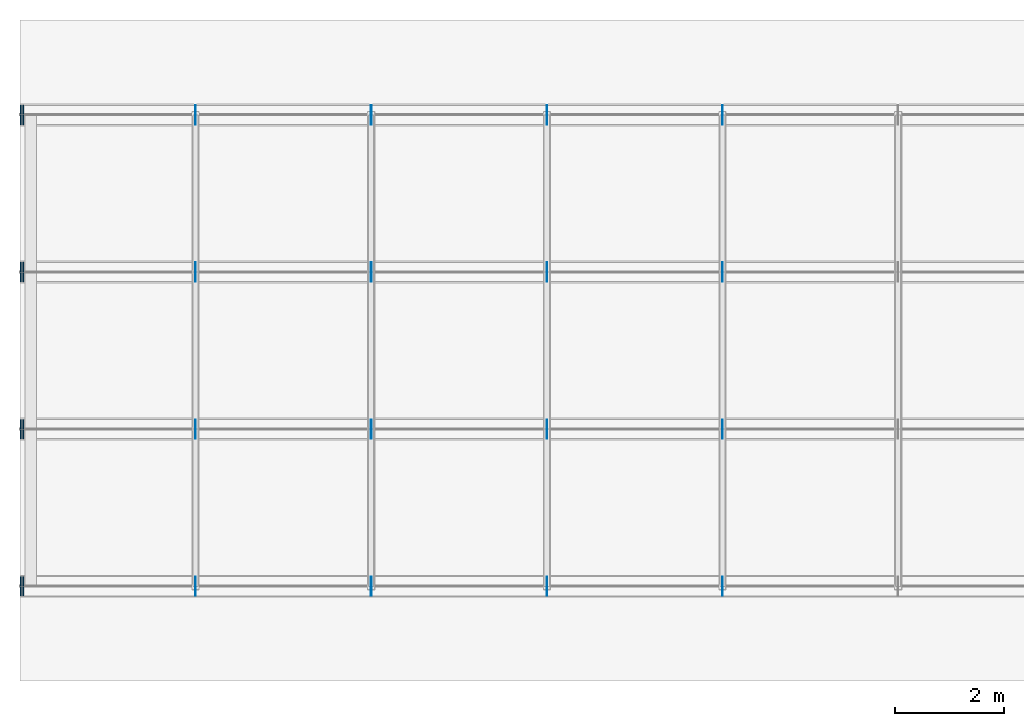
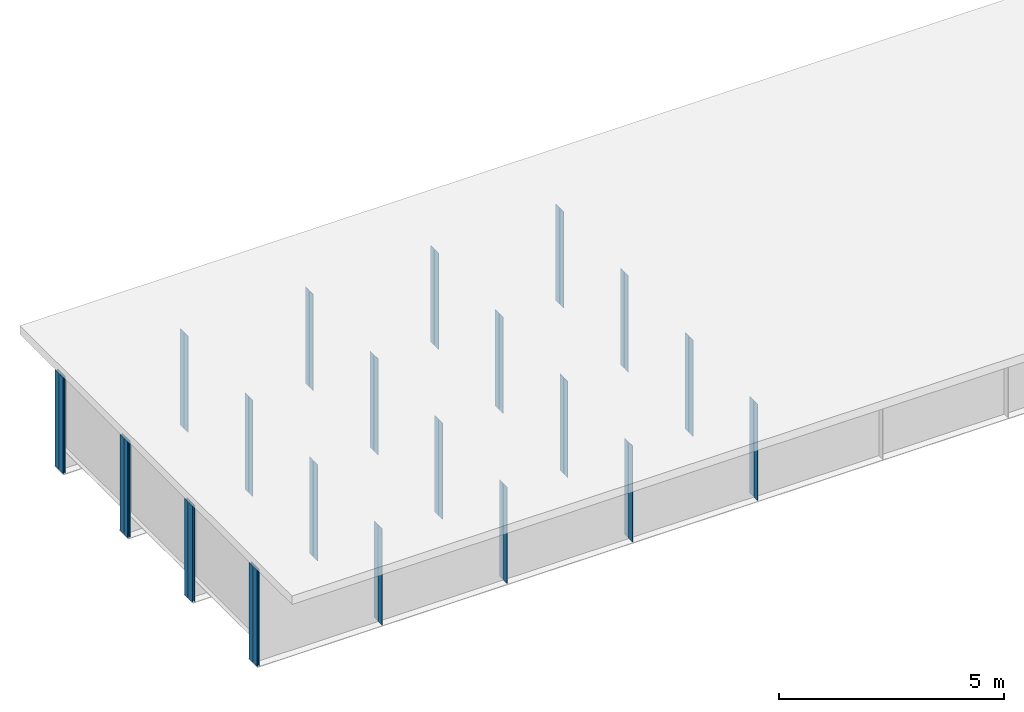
# One storey, part 3 of 13: 48 plates.
"""IFC4 building model written with IfcOpenShell, lengths in metres."""

import ifcopenshell
import ifcopenshell.guid

model = None  # the IFC model being written
_history = None  # IfcOwnerHistory: only IFC2X3 demands one
_inside = {}  # id of a spatial element -> (the spatial element, [elements in it])
_under = {}  # id of a project, library or spatial element -> (it, [spatial elements below it])
_declared = {}  # id of a project -> (the project, [libraries it declares])
_typed = {}  # id of a type object -> (the type object, [elements of that type])
_made_of = {}  # id of a material, layer set ... -> (it, [elements and type objects made of it])


def new_model(schema):
    """Start an empty IFC model of exactly this schema.

    Asked for "IFC4X3", IfcOpenShell would pick the latest addendum, in which some entities
    have other attributes; the version numbers below select the first issue.
    IFC2X3 requires an IfcOwnerHistory on every rooted entity: one is made here for all.
    """
    global model, _history
    if schema == "IFC4X3":
        model = ifcopenshell.file(schema_version=(4, 3, 0, 0))
    else:
        model = ifcopenshell.file(schema=schema)
    _inside.clear()
    _under.clear()
    _declared.clear()
    _typed.clear()
    _made_of.clear()
    _history = None
    if model.schema == "IFC2X3":
        org = make("IfcOrganization", Name="unknown")
        user = make(
            "IfcPersonAndOrganization",
            ThePerson=make("IfcPerson", FamilyName="unknown"),
            TheOrganization=org,
        )
        app = make(
            "IfcApplication",
            ApplicationDeveloper=org,
            Version="unknown",
            ApplicationFullName="unknown",
            ApplicationIdentifier="unknown",
        )
        _history = make(
            "IfcOwnerHistory",
            OwningUser=user,
            OwningApplication=app,
            ChangeAction="ADDED",
            CreationDate=0,
        )
    return model


def make(cls, **values):
    """One entity of the class cls with the attributes given. An attribute that is None is left unset."""
    return model.create_entity(
        cls, **{name: value for name, value in values.items() if value is not None}
    )


def rooted(cls, **values):
    """An entity with a GlobalId (a new one), such as an element, a storey or a relation."""
    return make(cls, GlobalId=ifcopenshell.guid.new(), OwnerHistory=_history, **values)


def si_unit(unit_type, name, prefix=None):
    """IfcSIUnit, for example si_unit("LENGTHUNIT", "METRE", prefix="MILLI")."""
    return make("IfcSIUnit", UnitType=unit_type, Prefix=prefix, Name=name)


def assignment(units):
    """IfcUnitAssignment: the units of a project."""
    return None if units is None else make("IfcUnitAssignment", Units=units)


def point(xyz):
    """IfcCartesianPoint."""
    return None if xyz is None else make("IfcCartesianPoint", Coordinates=xyz)


def direction(xyz):
    """IfcDirection."""
    return None if xyz is None else make("IfcDirection", DirectionRatios=xyz)


def frame(location, z_axis=None, x_axis=None):
    """IfcAxis2Placement3D, a coordinate frame: its origin and axes. An axis left out is left unset."""
    return make(
        "IfcAxis2Placement3D",
        Location=point(location),
        Axis=direction(z_axis),
        RefDirection=direction(x_axis),
    )


def frame_2d(location, x_axis=None):
    """IfcAxis2Placement2D, a coordinate frame in the plane: its origin and x axis."""
    return make(
        "IfcAxis2Placement2D", Location=point(location), RefDirection=direction(x_axis)
    )


def origin():
    """The frame at (0, 0, 0) with its axes left unset."""
    return frame((0.0, 0.0, 0.0))


def origin_with_axes():
    """The frame at (0, 0, 0) with the z axis (0, 0, 1) and the x axis (1, 0, 0) written out."""
    return frame((0.0, 0.0, 0.0), z_axis=(0.0, 0.0, 1.0), x_axis=(1.0, 0.0, 0.0))


def origin_2d_with_axis():
    """The frame at (0, 0) in the plane with the x axis (1, 0) written out."""
    return frame_2d((0.0, 0.0), x_axis=(1.0, 0.0))


def place(relative_to, where):
    """IfcLocalPlacement: puts the frame where relative to a parent placement (None: the world)."""
    return make(
        "IfcLocalPlacement", PlacementRelTo=relative_to, RelativePlacement=where
    )


def context(
    kind, dimensions, precision=None, world=None, true_north=None, identifier=None
):
    """IfcGeometricRepresentationContext, for example the 3D "Model" context."""
    return make(
        "IfcGeometricRepresentationContext",
        ContextIdentifier=identifier,
        ContextType=kind,
        CoordinateSpaceDimension=dimensions,
        Precision=precision,
        WorldCoordinateSystem=world,
        TrueNorth=true_north,
    )


def subcontext(parent, identifier, kind, view, scale=None):
    """IfcGeometricRepresentationSubContext, for example "Body" below "Model"."""
    return make(
        "IfcGeometricRepresentationSubContext",
        ContextIdentifier=identifier,
        ContextType=kind,
        ParentContext=parent,
        TargetScale=scale,
        TargetView=view,
    )


def project(units=None, contexts=None):
    """IfcProject with its units and contexts."""
    return rooted(
        "IfcProject",
        Name="project",
        RepresentationContexts=contexts,
        UnitsInContext=assignment(units),
    )


def spatial(cls, under=None, at=None, **own):
    """A site, building, storey or space (cls), placed at a placement, below another one or the project."""
    s = rooted(cls, ObjectPlacement=at, **own)
    if under is not None:
        _under.setdefault(under.id(), (under, []))[1].append(s)
    return s


def profile(cls, at=None, kind="AREA", **sizes):
    """A parametric profile (cls). Its sizes go by their IFC names, for example OverallWidth=200.0."""
    return make(cls, ProfileType=kind, Position=at, **sizes)


def rectangle(**sizes):
    """IfcRectangleProfileDef."""
    return profile("IfcRectangleProfileDef", **sizes)


def extrude(swept, where, along, depth):
    """IfcExtrudedAreaSolid: the profile swept, set in the frame where, extruded along a direction by depth."""
    return make(
        "IfcExtrudedAreaSolid",
        SweptArea=swept,
        Position=where,
        ExtrudedDirection=direction(along),
        Depth=depth,
    )


def shape(context_of_items, identifier, shape_type, items):
    """IfcShapeRepresentation: the items that make up one representation, for example the "Body"."""
    return make(
        "IfcShapeRepresentation",
        ContextOfItems=context_of_items,
        RepresentationIdentifier=identifier,
        RepresentationType=shape_type,
        Items=items,
    )


def made_of(thing, what):
    """Note that an element or type object is made of a material, layer set ...; save() writes the relation."""
    if what is not None:
        _made_of.setdefault(what.id(), (what, []))[1].append(thing)
    return thing


def element(
    cls,
    number,
    at=None,
    inside=None,
    cuts=None,
    type_object=None,
    material=None,
    context=None,
    identifier="Body",
    shape_type=None,
    held_by="IfcProductDefinitionShape",
    body=None,
    shapes=None,
    **own,
):
    """One element of the class cls, such as IfcWall. Its Tag is "e" and its number.

    at: its placement. inside: the storey or other place that contains it. cuts: it is an
    opening in that element (IfcRelVoidsElement). A single representation is given by context,
    identifier, shape_type and body (its items); several are given by shapes. held_by: the class
    of the entity that holds the representations. save() writes the other relations.
    """
    e = rooted(cls, Tag="e%d" % number, ObjectPlacement=at, **own)
    if body is not None:
        shapes = [shape(context, identifier, shape_type, body)]
    if shapes is not None:
        e.Representation = make(held_by, Representations=shapes)
    if inside is not None:
        _inside.setdefault(inside.id(), (inside, []))[1].append(e)
    if cuts is not None:
        rooted(
            "IfcRelVoidsElement", RelatingBuildingElement=cuts, RelatedOpeningElement=e
        )
    if type_object is not None:
        _typed.setdefault(type_object.id(), (type_object, []))[1].append(e)
    return made_of(e, material)


def aggregate(whole, parts):
    """IfcRelAggregates: a whole, such as a stair, and the parts it consists of."""
    return rooted("IfcRelAggregates", RelatingObject=whole, RelatedObjects=parts)


def save(model, path):
    """Write the relations noted so far, then the file.

    IfcRelAggregates (storeys below a building ...), IfcRelContainedInSpatialStructure (elements
    in a storey), IfcRelDefinesByType, IfcRelAssociatesMaterial and IfcRelDeclares: one each for
    every whole, place, type object, material and project.
    """
    for whole, parts in _under.values():
        aggregate(whole, parts)
    for where, things in _inside.values():
        rooted(
            "IfcRelContainedInSpatialStructure",
            RelatedElements=things,
            RelatingStructure=where,
        )
    for kind, things in _typed.values():
        rooted("IfcRelDefinesByType", RelatedObjects=things, RelatingType=kind)
    for what, things in _made_of.values():
        rooted("IfcRelAssociatesMaterial", RelatedObjects=things, RelatingMaterial=what)
    for by, libraries in _declared.values():
        rooted("IfcRelDeclares", RelatingContext=by, RelatedDefinitions=libraries)
    model.write(path)


model = new_model("IFC4")

# Units and contexts
model_context = context("Model", 3, precision=1e-05, world=origin())
body_context = subcontext(model_context, "Body", "Model", "MODEL_VIEW")
ifc_project = project(units=[si_unit("LENGTHUNIT", "METRE"), si_unit("AREAUNIT", "SQUARE_METRE"), si_unit("VOLUMEUNIT", "CUBIC_METRE"), si_unit("PLANEANGLEUNIT", "RADIAN")], contexts=[model_context])

# Site, building, storey
site_placement = place(None, origin_with_axes())
site = spatial("IfcSite", under=ifc_project, at=site_placement, Name="Default Site")
building_placement = place(site_placement, origin_with_axes())
building = spatial("IfcBuilding", under=site, at=building_placement, Name="Bridge Structure")
storey_placement = place(building_placement, origin_with_axes())
storey = spatial("IfcBuildingStorey", under=building, at=storey_placement, Name="Superstructure")

# Plates
for number, where, z_axis, x_axis, name in (
    (1, (3.214, -4.2205, -1.307), (0.0, 0.0, 1.0), (1.0, 0.0, 0.0), "Intermediate Stiffener 1"),
    (2, (3.214, -4.4045000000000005, -1.307), (0.0, 0.0, 1.0), (1.0, 0.0, 0.0), "Intermediate Stiffener 1"),
    (3, (6.428, -4.2205, -1.307), (0.0, 0.0, 1.0), (1.0, 0.0, 0.0), "Intermediate Stiffener 1"),
    (4, (6.428, -4.4045000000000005, -1.307), (0.0, 0.0, 1.0), (1.0, 0.0, 0.0), "Intermediate Stiffener 1"),
    (5, (9.642, -4.2205, -1.307), (0.0, 0.0, 1.0), (1.0, 0.0, 0.0), "Intermediate Stiffener 1"),
    (6, (9.642, -4.4045000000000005, -1.307), (0.0, 0.0, 1.0), (1.0, 0.0, 0.0), "Intermediate Stiffener 1"),
    (7, (12.856, -4.2205, -1.307), (0.0, 0.0, 1.0), (1.0, 0.0, 0.0), "Intermediate Stiffener 1"),
    (8, (12.856, -4.4045000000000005, -1.307), (0.0, 0.0, 1.0), (1.0, 0.0, 0.0), "Intermediate Stiffener 1"),
):
    element("IfcPlate", number, at=place(storey_placement, frame(where, z_axis=z_axis, x_axis=x_axis)), inside=storey, Name=name, context=body_context, shape_type="SweptSolid", body=[
        extrude(rectangle(XDim=0.012, YDim=0.166, at=origin_2d_with_axis()), origin_with_axes(), (0.0, 0.0, 1.0), 2.614),
    ])
for number, where, z_axis, x_axis, name in (
    (9, (0.01, -4.2205, -1.307), (0.0, 0.0, 1.0), (1.0, 0.0, 0.0), "End Stiffener 1"),
    (10, (0.01, -4.4045000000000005, -1.307), (0.0, 0.0, 1.0), (1.0, 0.0, 0.0), "End Stiffener 1"),
    (11, (0.06, -4.2205, -1.307), (0.0, 0.0, 1.0), (1.0, 0.0, 0.0), "End Stiffener 1"),
    (12, (0.06, -4.4045000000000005, -1.307), (0.0, 0.0, 1.0), (1.0, 0.0, 0.0), "End Stiffener 1"),
):
    element("IfcPlate", number, at=place(storey_placement, frame(where, z_axis=z_axis, x_axis=x_axis)), inside=storey, Name=name, context=body_context, shape_type="SweptSolid", body=[
        extrude(rectangle(XDim=0.02, YDim=0.166, at=origin_2d_with_axis()), origin_with_axes(), (0.0, 0.0, 1.0), 2.614),
    ])
for number, where, z_axis, x_axis, name in (
    (13, (3.214, -1.3455, -1.307), (0.0, 0.0, 1.0), (1.0, 0.0, 0.0), "Intermediate Stiffener 2"),
    (14, (3.214, -1.5295, -1.307), (0.0, 0.0, 1.0), (1.0, 0.0, 0.0), "Intermediate Stiffener 2"),
    (15, (6.428, -1.3455, -1.307), (0.0, 0.0, 1.0), (1.0, 0.0, 0.0), "Intermediate Stiffener 2"),
    (16, (6.428, -1.5295, -1.307), (0.0, 0.0, 1.0), (1.0, 0.0, 0.0), "Intermediate Stiffener 2"),
    (17, (9.642, -1.3455, -1.307), (0.0, 0.0, 1.0), (1.0, 0.0, 0.0), "Intermediate Stiffener 2"),
    (18, (9.642, -1.5295, -1.307), (0.0, 0.0, 1.0), (1.0, 0.0, 0.0), "Intermediate Stiffener 2"),
    (19, (12.856, -1.3455, -1.307), (0.0, 0.0, 1.0), (1.0, 0.0, 0.0), "Intermediate Stiffener 2"),
    (20, (12.856, -1.5295, -1.307), (0.0, 0.0, 1.0), (1.0, 0.0, 0.0), "Intermediate Stiffener 2"),
):
    element("IfcPlate", number, at=place(storey_placement, frame(where, z_axis=z_axis, x_axis=x_axis)), inside=storey, Name=name, context=body_context, shape_type="SweptSolid", body=[
        extrude(rectangle(XDim=0.012, YDim=0.166, at=origin_2d_with_axis()), origin_with_axes(), (0.0, 0.0, 1.0), 2.614),
    ])
for number, where, z_axis, x_axis, name in (
    (21, (0.01, -1.3455, -1.307), (0.0, 0.0, 1.0), (1.0, 0.0, 0.0), "End Stiffener 2"),
    (22, (0.01, -1.5295, -1.307), (0.0, 0.0, 1.0), (1.0, 0.0, 0.0), "End Stiffener 2"),
    (23, (0.06, -1.3455, -1.307), (0.0, 0.0, 1.0), (1.0, 0.0, 0.0), "End Stiffener 2"),
    (24, (0.06, -1.5295, -1.307), (0.0, 0.0, 1.0), (1.0, 0.0, 0.0), "End Stiffener 2"),
):
    element("IfcPlate", number, at=place(storey_placement, frame(where, z_axis=z_axis, x_axis=x_axis)), inside=storey, Name=name, context=body_context, shape_type="SweptSolid", body=[
        extrude(rectangle(XDim=0.02, YDim=0.166, at=origin_2d_with_axis()), origin_with_axes(), (0.0, 0.0, 1.0), 2.614),
    ])
for number, where, z_axis, x_axis, name in (
    (25, (3.214, 1.5295, -1.307), (0.0, 0.0, 1.0), (1.0, 0.0, 0.0), "Intermediate Stiffener 3"),
    (26, (3.214, 1.3455, -1.307), (0.0, 0.0, 1.0), (1.0, 0.0, 0.0), "Intermediate Stiffener 3"),
    (27, (6.428, 1.5295, -1.307), (0.0, 0.0, 1.0), (1.0, 0.0, 0.0), "Intermediate Stiffener 3"),
    (28, (6.428, 1.3455, -1.307), (0.0, 0.0, 1.0), (1.0, 0.0, 0.0), "Intermediate Stiffener 3"),
    (29, (9.642, 1.5295, -1.307), (0.0, 0.0, 1.0), (1.0, 0.0, 0.0), "Intermediate Stiffener 3"),
    (30, (9.642, 1.3455, -1.307), (0.0, 0.0, 1.0), (1.0, 0.0, 0.0), "Intermediate Stiffener 3"),
    (31, (12.856, 1.5295, -1.307), (0.0, 0.0, 1.0), (1.0, 0.0, 0.0), "Intermediate Stiffener 3"),
    (32, (12.856, 1.3455, -1.307), (0.0, 0.0, 1.0), (1.0, 0.0, 0.0), "Intermediate Stiffener 3"),
):
    element("IfcPlate", number, at=place(storey_placement, frame(where, z_axis=z_axis, x_axis=x_axis)), inside=storey, Name=name, context=body_context, shape_type="SweptSolid", body=[
        extrude(rectangle(XDim=0.012, YDim=0.166, at=origin_2d_with_axis()), origin_with_axes(), (0.0, 0.0, 1.0), 2.614),
    ])
for number, where, z_axis, x_axis, name in (
    (33, (0.01, 1.5295, -1.307), (0.0, 0.0, 1.0), (1.0, 0.0, 0.0), "End Stiffener 3"),
    (34, (0.01, 1.3455, -1.307), (0.0, 0.0, 1.0), (1.0, 0.0, 0.0), "End Stiffener 3"),
    (35, (0.06, 1.5295, -1.307), (0.0, 0.0, 1.0), (1.0, 0.0, 0.0), "End Stiffener 3"),
    (36, (0.06, 1.3455, -1.307), (0.0, 0.0, 1.0), (1.0, 0.0, 0.0), "End Stiffener 3"),
):
    element("IfcPlate", number, at=place(storey_placement, frame(where, z_axis=z_axis, x_axis=x_axis)), inside=storey, Name=name, context=body_context, shape_type="SweptSolid", body=[
        extrude(rectangle(XDim=0.02, YDim=0.166, at=origin_2d_with_axis()), origin_with_axes(), (0.0, 0.0, 1.0), 2.614),
    ])
for number, where, z_axis, x_axis, name in (
    (37, (3.214, 4.4045000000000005, -1.307), (0.0, 0.0, 1.0), (1.0, 0.0, 0.0), "Intermediate Stiffener 4"),
    (38, (3.214, 4.2205, -1.307), (0.0, 0.0, 1.0), (1.0, 0.0, 0.0), "Intermediate Stiffener 4"),
    (39, (6.428, 4.4045000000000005, -1.307), (0.0, 0.0, 1.0), (1.0, 0.0, 0.0), "Intermediate Stiffener 4"),
    (40, (6.428, 4.2205, -1.307), (0.0, 0.0, 1.0), (1.0, 0.0, 0.0), "Intermediate Stiffener 4"),
    (41, (9.642, 4.4045000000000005, -1.307), (0.0, 0.0, 1.0), (1.0, 0.0, 0.0), "Intermediate Stiffener 4"),
    (42, (9.642, 4.2205, -1.307), (0.0, 0.0, 1.0), (1.0, 0.0, 0.0), "Intermediate Stiffener 4"),
    (43, (12.856, 4.4045000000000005, -1.307), (0.0, 0.0, 1.0), (1.0, 0.0, 0.0), "Intermediate Stiffener 4"),
    (44, (12.856, 4.2205, -1.307), (0.0, 0.0, 1.0), (1.0, 0.0, 0.0), "Intermediate Stiffener 4"),
):
    element("IfcPlate", number, at=place(storey_placement, frame(where, z_axis=z_axis, x_axis=x_axis)), inside=storey, Name=name, context=body_context, shape_type="SweptSolid", body=[
        extrude(rectangle(XDim=0.012, YDim=0.166, at=origin_2d_with_axis()), origin_with_axes(), (0.0, 0.0, 1.0), 2.614),
    ])
for number, where, z_axis, x_axis, name in (
    (45, (0.01, 4.4045000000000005, -1.307), (0.0, 0.0, 1.0), (1.0, 0.0, 0.0), "End Stiffener 4"),
    (46, (0.01, 4.2205, -1.307), (0.0, 0.0, 1.0), (1.0, 0.0, 0.0), "End Stiffener 4"),
    (47, (0.06, 4.4045000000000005, -1.307), (0.0, 0.0, 1.0), (1.0, 0.0, 0.0), "End Stiffener 4"),
    (48, (0.06, 4.2205, -1.307), (0.0, 0.0, 1.0), (1.0, 0.0, 0.0), "End Stiffener 4"),
):
    element("IfcPlate", number, at=place(storey_placement, frame(where, z_axis=z_axis, x_axis=x_axis)), inside=storey, Name=name, context=body_context, shape_type="SweptSolid", body=[
        extrude(rectangle(XDim=0.02, YDim=0.166, at=origin_2d_with_axis()), origin_with_axes(), (0.0, 0.0, 1.0), 2.614),
    ])

save(model, "model.ifc")
